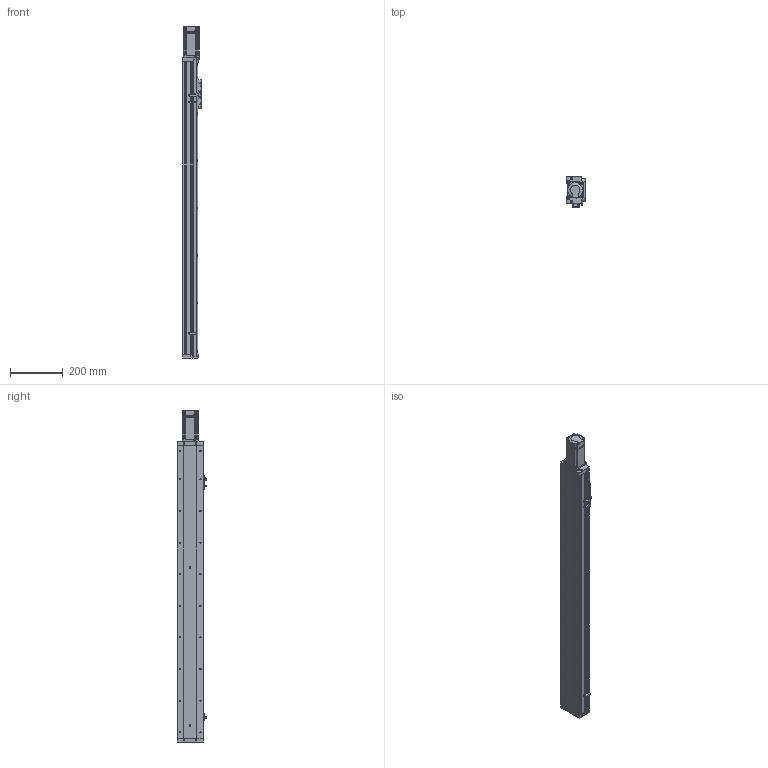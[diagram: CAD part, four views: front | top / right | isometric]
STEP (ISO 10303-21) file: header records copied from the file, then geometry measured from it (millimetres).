
FILE_DESCRIPTION (( 'STEP AP214' ), '1' );
FILE_NAME ('KSD100S-S900-MN-CR.STEP', '2019-09-02T09:41:11', ( '微软用户' ), ( '微软中国' ), 'SwSTEP 2.0', 'SolidWorks 2014', '' );
FILE_SCHEMA (( 'AUTOMOTIVE_DESIGN' ));
Length unit declared in the file: millimetre
Products named in the file (12): MHMD042G1CA_2_03; U倰嫖萇EEㄜSX672; 感应片100宽全封闭; 100宽马达安装板全封闭不带电机座; 100宽端板全封闭; 100宽滚珠螺姆安装板1防护罩; 100宽滚珠螺姆安装板1; 100宽盖板压板不带电机座; 100宽盖板900行程不带电机座; 100宽侧板900行程不带电机座; 100宽底板全封闭900行程不带电机座; KSD100S-S900-MN-CR
Assembly tree (15 placements, depth 2):
  KSD100S-S900-MN-CR
    100宽底板全封闭900行程不带电机座
    100宽侧板900行程不带电机座  x2
    100宽盖板900行程不带电机座
    100宽盖板压板不带电机座  x2
    100宽滚珠螺姆安装板1
    100宽滚珠螺姆安装板1防护罩
    100宽端板全封闭
    100宽马达安装板全封闭不带电机座
    感应片100宽全封闭
    U倰嫖萇EEㄜSX672  x3
    MHMD042G1CA_2_03
Bounding box: 70 x 113.7 x 1260.5 mm (x, y, z)
Volume: 2212116 mm3; surface area: 969501.9 mm2
Topology: 14 solids, 15 shells, 1612 faces, 4524 edges, 2870 vertices
Faces by surface type: cylinder 685, plane 660, cone 249, bspline 18
Entity records: 55176 total; most frequent: CARTESIAN_POINT 8691, DIRECTION 7549, ORIENTED_EDGE 7004, EDGE_CURVE 3574, AXIS2_PLACEMENT_3D 2700, VERTEX_POINT 2368, LINE 2149, VECTOR 2149
